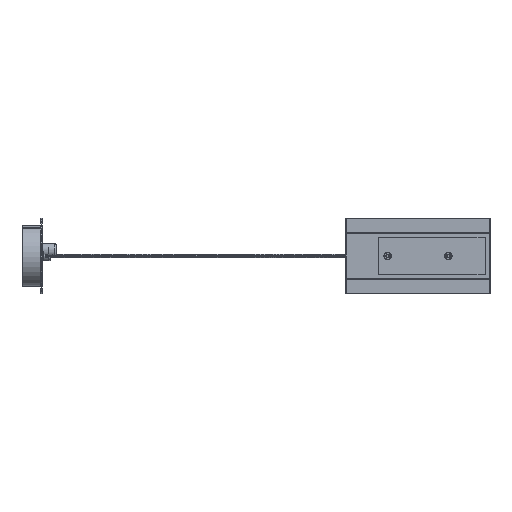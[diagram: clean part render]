
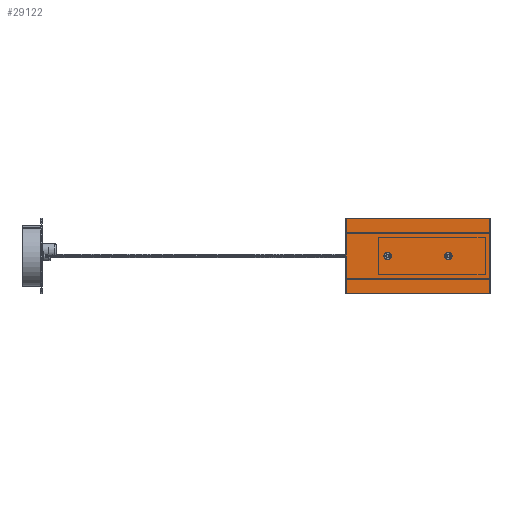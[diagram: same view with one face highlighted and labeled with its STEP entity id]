
A CAD part, left-side view. The second image highlights one B-rep face of the part: STEP entity #29122.
In plain terms, the highlighted planar face has unit normal (-1, 0, 0).
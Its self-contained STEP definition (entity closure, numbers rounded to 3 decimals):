
#2755 = EDGE_LOOP ( 'NONE', ( #96092, #29248 ) ) ;
#7009 = AXIS2_PLACEMENT_3D ( 'NONE', #74484, #75806, #126062 ) ;
#8299 = EDGE_CURVE ( 'NONE', #111879, #88208, #20455, .T. ) ;
#8324 = CARTESIAN_POINT ( 'NONE',  ( -525., 30., -2.5 ) ) ;
#9551 = PLANE ( 'NONE',  #30357 ) ;
#10412 = DIRECTION ( 'NONE',  ( 1., 0., 0. ) ) ;
#10748 = CARTESIAN_POINT ( 'NONE',  ( -525., -50., 0. ) ) ;
#11152 = FACE_BOUND ( 'NONE', #17515, .T. ) ;
#11632 = DIRECTION ( 'NONE',  ( -1., 0., 0. ) ) ;
#11760 = VECTOR ( 'NONE', #78584, 1000. ) ;
#12937 = CARTESIAN_POINT ( 'NONE',  ( -525., 30., 2.5 ) ) ;
#14024 = VECTOR ( 'NONE', #80708, 1000. ) ;
#14620 = CARTESIAN_POINT ( 'NONE',  ( -525., -50., 2.5 ) ) ;
#17515 = EDGE_LOOP ( 'NONE', ( #101578, #93603 ) ) ;
#19175 = CARTESIAN_POINT ( 'NONE',  ( -525., 85., 50. ) ) ;
#20446 = DIRECTION ( 'NONE',  ( 0., 1., 0. ) ) ;
#20455 = CIRCLE ( 'NONE', #7009, 2.5 ) ;
#20907 = CARTESIAN_POINT ( 'NONE',  ( -525., -105., 50. ) ) ;
#24074 = DIRECTION ( 'NONE',  ( 0., 0., 1. ) ) ;
#24194 = EDGE_CURVE ( 'NONE', #40765, #109148, #74534, .T. ) ;
#28425 = DIRECTION ( 'NONE',  ( -1., 0., 0. ) ) ;
#28864 = CARTESIAN_POINT ( 'NONE',  ( -525., 30., 0. ) ) ;
#29122 = ADVANCED_FACE ( 'NONE', ( #98691, #11152, #126927 ), #9551, .F. ) ;
#29248 = ORIENTED_EDGE ( 'NONE', *, *, #8299, .F. ) ;
#30357 = AXIS2_PLACEMENT_3D ( 'NONE', #50961, #10412, #20446 ) ;
#30780 = VECTOR ( 'NONE', #120738, 1000. ) ;
#31271 = AXIS2_PLACEMENT_3D ( 'NONE', #28864, #28425, #79936 ) ;
#31500 = VECTOR ( 'NONE', #63391, 1000. ) ;
#32009 = EDGE_CURVE ( 'NONE', #76852, #83760, #53399, .T. ) ;
#34066 = CIRCLE ( 'NONE', #31271, 2.5 ) ;
#36454 = VERTEX_POINT ( 'NONE', #20907 ) ;
#37744 = CARTESIAN_POINT ( 'NONE',  ( -525., -105., -50. ) ) ;
#40765 = VERTEX_POINT ( 'NONE', #37744 ) ;
#45268 = ORIENTED_EDGE ( 'NONE', *, *, #85373, .F. ) ;
#50961 = CARTESIAN_POINT ( 'NONE',  ( -525., -10., 0. ) ) ;
#53399 = CIRCLE ( 'NONE', #111218, 2.5 ) ;
#53506 = AXIS2_PLACEMENT_3D ( 'NONE', #10748, #11632, #112556 ) ;
#59661 = CIRCLE ( 'NONE', #53506, 2.5 ) ;
#61072 = EDGE_LOOP ( 'NONE', ( #88276, #45268, #86006, #124401 ) ) ;
#63321 = DIRECTION ( 'NONE',  ( -1., 0., 0. ) ) ;
#63391 = DIRECTION ( 'NONE',  ( 0., 0., -1. ) ) ;
#70371 = CARTESIAN_POINT ( 'NONE',  ( -525., 85., -50. ) ) ;
#72099 = CARTESIAN_POINT ( 'NONE',  ( -525., 30., 0. ) ) ;
#74484 = CARTESIAN_POINT ( 'NONE',  ( -525., -50., 0. ) ) ;
#74534 = LINE ( 'NONE', #70371, #30780 ) ;
#75806 = DIRECTION ( 'NONE',  ( -1., 0., 0. ) ) ;
#76104 = CARTESIAN_POINT ( 'NONE',  ( -525., -50., -2.5 ) ) ;
#76852 = VERTEX_POINT ( 'NONE', #12937 ) ;
#78221 = EDGE_CURVE ( 'NONE', #109148, #81756, #98385, .T. ) ;
#78584 = DIRECTION ( 'NONE',  ( 0., -1., 0. ) ) ;
#79817 = EDGE_CURVE ( 'NONE', #81756, #36454, #107257, .T. ) ;
#79936 = DIRECTION ( 'NONE',  ( 0., 0., 1. ) ) ;
#80708 = DIRECTION ( 'NONE',  ( 0., 0., 1. ) ) ;
#81756 = VERTEX_POINT ( 'NONE', #123149 ) ;
#83760 = VERTEX_POINT ( 'NONE', #8324 ) ;
#83984 = CARTESIAN_POINT ( 'NONE',  ( -525., -105., 50. ) ) ;
#85373 = EDGE_CURVE ( 'NONE', #36454, #40765, #100228, .T. ) ;
#86006 = ORIENTED_EDGE ( 'NONE', *, *, #79817, .F. ) ;
#88208 = VERTEX_POINT ( 'NONE', #14620 ) ;
#88276 = ORIENTED_EDGE ( 'NONE', *, *, #24194, .F. ) ;
#93603 = ORIENTED_EDGE ( 'NONE', *, *, #98665, .F. ) ;
#96092 = ORIENTED_EDGE ( 'NONE', *, *, #124348, .F. ) ;
#98385 = LINE ( 'NONE', #110478, #14024 ) ;
#98665 = EDGE_CURVE ( 'NONE', #83760, #76852, #34066, .T. ) ;
#98691 = FACE_OUTER_BOUND ( 'NONE', #61072, .T. ) ;
#100228 = LINE ( 'NONE', #83984, #31500 ) ;
#101578 = ORIENTED_EDGE ( 'NONE', *, *, #32009, .F. ) ;
#107257 = LINE ( 'NONE', #19175, #11760 ) ;
#109148 = VERTEX_POINT ( 'NONE', #120671 ) ;
#110478 = CARTESIAN_POINT ( 'NONE',  ( -525., 85., 50. ) ) ;
#111218 = AXIS2_PLACEMENT_3D ( 'NONE', #72099, #63321, #24074 ) ;
#111879 = VERTEX_POINT ( 'NONE', #76104 ) ;
#112556 = DIRECTION ( 'NONE',  ( 0., 0., 1. ) ) ;
#120671 = CARTESIAN_POINT ( 'NONE',  ( -525., 85., -50. ) ) ;
#120738 = DIRECTION ( 'NONE',  ( 0., 1., 0. ) ) ;
#123149 = CARTESIAN_POINT ( 'NONE',  ( -525., 85., 50. ) ) ;
#124348 = EDGE_CURVE ( 'NONE', #88208, #111879, #59661, .T. ) ;
#124401 = ORIENTED_EDGE ( 'NONE', *, *, #78221, .F. ) ;
#126062 = DIRECTION ( 'NONE',  ( 0., 0., 1. ) ) ;
#126927 = FACE_BOUND ( 'NONE', #2755, .T. ) ;
